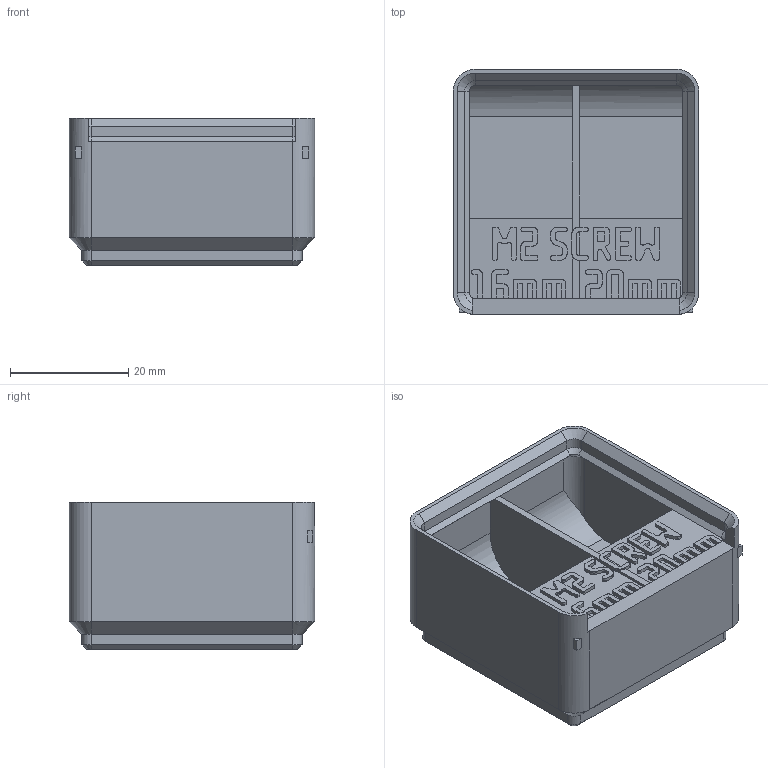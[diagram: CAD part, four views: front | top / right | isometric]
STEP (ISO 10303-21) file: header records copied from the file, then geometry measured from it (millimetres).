
FILE_DESCRIPTION(('Open CASCADE Model'),'2;1');
FILE_NAME('Open CASCADE Shape Model','2026-11-03T10:34:37',('Author'),( 'Open CASCADE'),'Open CASCADE STEP processor 8.0','build123d', 'Unknown');
FILE_SCHEMA(('AUTOMOTIVE_DESIGN { 1 0 10303 214 1 1 1 1 }'));
Products named in the file (1): COMPOUND
Bounding box: 41.5 x 41.5 x 24.9 mm (x, y, z)
Volume: 13709 mm3; surface area: 12155.3 mm2
Topology: 1 solids, 1 shells, 1636 faces, 4851 edges, 3218 vertices
Faces by surface type: plane 1598, cone 20, cylinder 18
Entity records: 113180 total; most frequent: CARTESIAN_POINT 23896, DIRECTION 13924, LINE 10466, VECTOR 10466, ORIENTED_EDGE 9702, PCURVE 9702, DEFINITIONAL_REPRESENTATION 9702, EDGE_CURVE 4851
